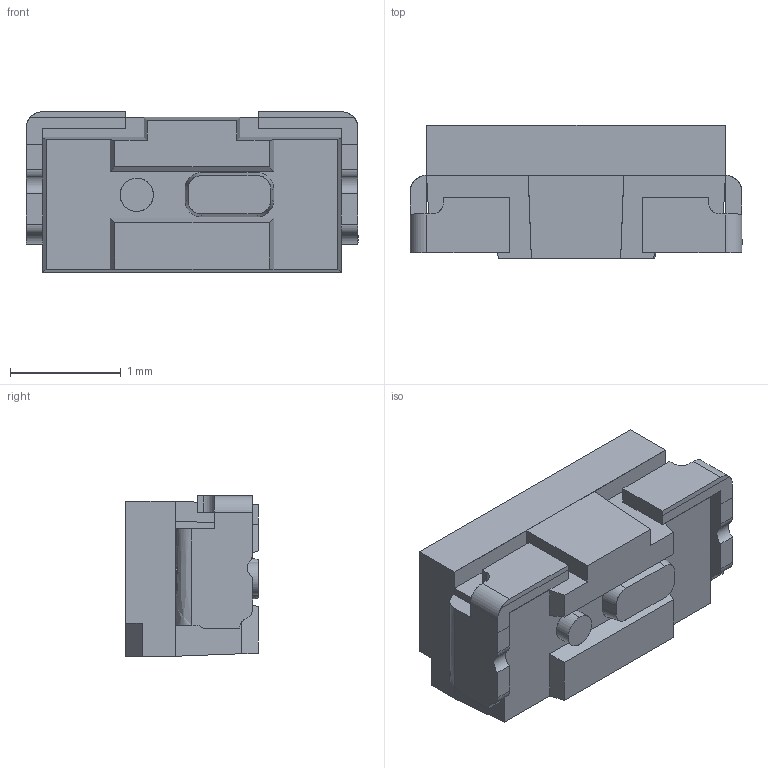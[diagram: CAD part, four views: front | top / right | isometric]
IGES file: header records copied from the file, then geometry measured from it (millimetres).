
Start section: SolidWorks IGES file using analytic representation for surfaces
Bounding box: 3 x 1.2 x 1.45 mm (x, y, z)
Surface area: 38.3 mm2 (no closed solid volume)
Topology: 0 solids, 0 shells, 288 faces, 2987 edges, 2971 vertices
Faces by surface type: bspline 186, revolution 102
